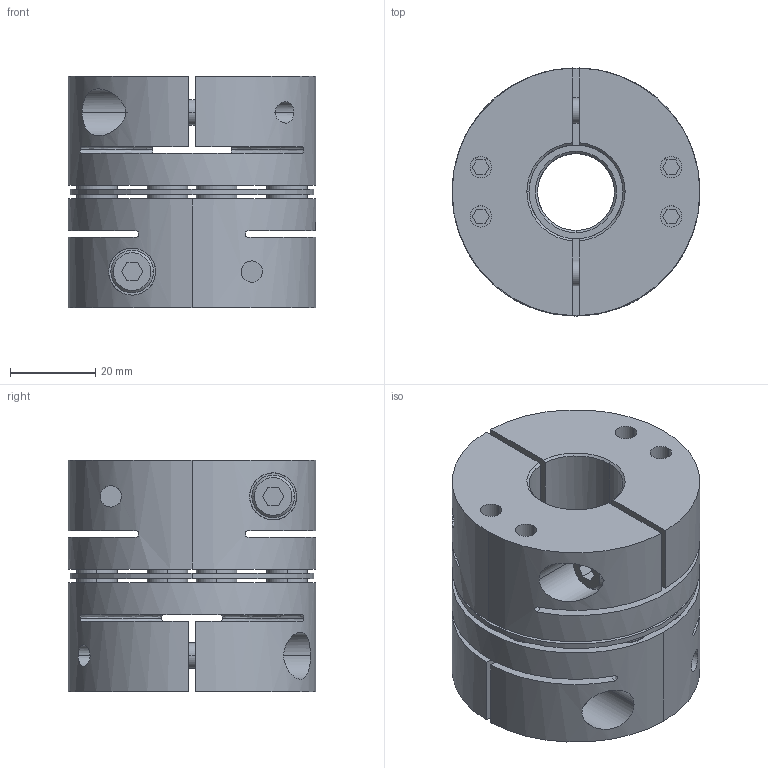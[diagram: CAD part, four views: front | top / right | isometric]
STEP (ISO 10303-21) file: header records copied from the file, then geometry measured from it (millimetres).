
FILE_DESCRIPTION((''),'2;1');
FILE_NAME('TAS-58C-18×22.stp','2022-11-14T22:18:19',(''),(''),'AutoCAD STEP 2000i','AutoCAD 2000i',', , ');
FILE_SCHEMA(('CONFIG_CONTROL_DESIGN'));
Length unit declared in the file: millimetre
Products named in the file (6): TAS-58C-12×22; 忣兜1; TA58C-22; CAP-M6×20; TA58C-12-2; TA58C-12
Assembly tree (7 placements, depth 3):
  TAS-58C-12×22
    忣兜1
    TA58C-22
      CAP-M6×20
    TA58C-12-2
      CAP-M6×20
    TA58C-12
      CAP-M6×20
Bounding box: 58 x 58 x 54.25 mm (x, y, z)
Volume: 105755.6 mm3; surface area: 41750.4 mm2
Topology: 1 solids, 1 shells, 360 faces, 898 edges, 628 vertices
Faces by surface type: plane 160, cylinder 148, cone 36, bspline 16
Entity records: 12805 total; most frequent: CARTESIAN_POINT 3832, DIRECTION 1922, ORIENTED_EDGE 1720, EDGE_CURVE 860, AXIS2_PLACEMENT_3D 732, VERTEX_POINT 564, EDGE_LOOP 464, VECTOR 458
